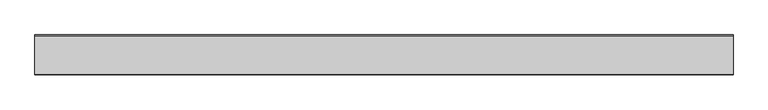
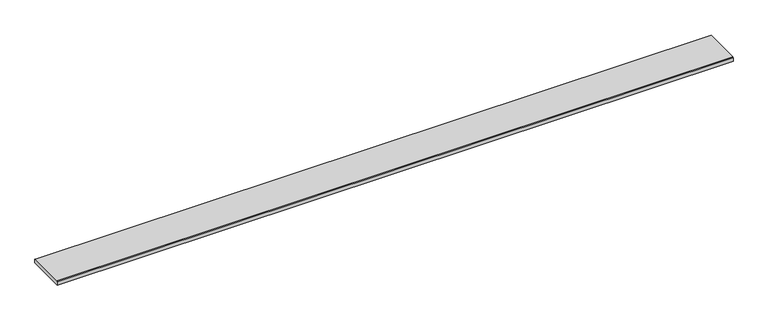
"""IFC4 building model written with IfcOpenShell, lengths in millimetres: proxy geometry."""

import ifcopenshell
import ifcopenshell.guid

model = None  # the IFC model being written
_history = None  # IfcOwnerHistory: only IFC2X3 demands one
_inside = {}  # id of a spatial element -> (the spatial element, [elements in it])
_under = {}  # id of a project, library or spatial element -> (it, [spatial elements below it])
_declared = {}  # id of a project -> (the project, [libraries it declares])
_typed = {}  # id of a type object -> (the type object, [elements of that type])
_made_of = {}  # id of a material, layer set ... -> (it, [elements and type objects made of it])


def new_model(schema):
    """Start an empty IFC model of exactly this schema.

    Asked for "IFC4X3", IfcOpenShell would pick the latest addendum, in which some entities
    have other attributes; the version numbers below select the first issue.
    IFC2X3 requires an IfcOwnerHistory on every rooted entity: one is made here for all.
    """
    global model, _history
    if schema == "IFC4X3":
        model = ifcopenshell.file(schema_version=(4, 3, 0, 0))
    else:
        model = ifcopenshell.file(schema=schema)
    _inside.clear()
    _under.clear()
    _declared.clear()
    _typed.clear()
    _made_of.clear()
    _history = None
    if model.schema == "IFC2X3":
        org = make("IfcOrganization", Name="unknown")
        user = make(
            "IfcPersonAndOrganization",
            ThePerson=make("IfcPerson", FamilyName="unknown"),
            TheOrganization=org,
        )
        app = make(
            "IfcApplication",
            ApplicationDeveloper=org,
            Version="unknown",
            ApplicationFullName="unknown",
            ApplicationIdentifier="unknown",
        )
        _history = make(
            "IfcOwnerHistory",
            OwningUser=user,
            OwningApplication=app,
            ChangeAction="ADDED",
            CreationDate=0,
        )
    return model


def make(cls, **values):
    """One entity of the class cls with the attributes given. An attribute that is None is left unset."""
    return model.create_entity(
        cls, **{name: value for name, value in values.items() if value is not None}
    )


def rooted(cls, **values):
    """An entity with a GlobalId (a new one), such as an element, a storey or a relation."""
    return make(cls, GlobalId=ifcopenshell.guid.new(), OwnerHistory=_history, **values)


def si_unit(unit_type, name, prefix=None):
    """IfcSIUnit, for example si_unit("LENGTHUNIT", "METRE", prefix="MILLI")."""
    return make("IfcSIUnit", UnitType=unit_type, Prefix=prefix, Name=name)


def assignment(units):
    """IfcUnitAssignment: the units of a project."""
    return None if units is None else make("IfcUnitAssignment", Units=units)


def point(xyz):
    """IfcCartesianPoint."""
    return None if xyz is None else make("IfcCartesianPoint", Coordinates=xyz)


def direction(xyz):
    """IfcDirection."""
    return None if xyz is None else make("IfcDirection", DirectionRatios=xyz)


def frame(location, z_axis=None, x_axis=None):
    """IfcAxis2Placement3D, a coordinate frame: its origin and axes. An axis left out is left unset."""
    return make(
        "IfcAxis2Placement3D",
        Location=point(location),
        Axis=direction(z_axis),
        RefDirection=direction(x_axis),
    )


def origin():
    """The frame at (0, 0, 0) with its axes left unset."""
    return frame((0.0, 0.0, 0.0))


def place(relative_to, where):
    """IfcLocalPlacement: puts the frame where relative to a parent placement (None: the world)."""
    return make(
        "IfcLocalPlacement", PlacementRelTo=relative_to, RelativePlacement=where
    )


def context(
    kind, dimensions, precision=None, world=None, true_north=None, identifier=None
):
    """IfcGeometricRepresentationContext, for example the 3D "Model" context."""
    return make(
        "IfcGeometricRepresentationContext",
        ContextIdentifier=identifier,
        ContextType=kind,
        CoordinateSpaceDimension=dimensions,
        Precision=precision,
        WorldCoordinateSystem=world,
        TrueNorth=true_north,
    )


def project(units=None, contexts=None):
    """IfcProject with its units and contexts."""
    return rooted(
        "IfcProject",
        Name="project",
        RepresentationContexts=contexts,
        UnitsInContext=assignment(units),
    )


def spatial(cls, under=None, at=None, **own):
    """A site, building, storey or space (cls), placed at a placement, below another one or the project."""
    s = rooted(cls, ObjectPlacement=at, **own)
    if under is not None:
        _under.setdefault(under.id(), (under, []))[1].append(s)
    return s


def polyline(points):
    """IfcPolyline through the points."""
    return make("IfcPolyline", Points=[point(p) for p in points])


def outline(outer, holes=None, kind="AREA"):
    """IfcArbitraryClosedProfileDef: a profile drawn as a closed curve; with holes, ...WithVoids."""
    if holes is None:
        return make("IfcArbitraryClosedProfileDef", ProfileType=kind, OuterCurve=outer)
    return make(
        "IfcArbitraryProfileDefWithVoids",
        ProfileType=kind,
        OuterCurve=outer,
        InnerCurves=holes,
    )


def extrude(swept, where, along, depth):
    """IfcExtrudedAreaSolid: the profile swept, set in the frame where, extruded along a direction by depth."""
    return make(
        "IfcExtrudedAreaSolid",
        SweptArea=swept,
        Position=where,
        ExtrudedDirection=direction(along),
        Depth=depth,
    )


def shape(context_of_items, identifier, shape_type, items):
    """IfcShapeRepresentation: the items that make up one representation, for example the "Body"."""
    return make(
        "IfcShapeRepresentation",
        ContextOfItems=context_of_items,
        RepresentationIdentifier=identifier,
        RepresentationType=shape_type,
        Items=items,
    )


def source(mapping_origin, context_of_items, identifier, shape_type, items):
    """IfcRepresentationMap: a shape defined once, which mapped items show again and again."""
    return make(
        "IfcRepresentationMap",
        MappingOrigin=mapping_origin,
        MappedRepresentation=shape(context_of_items, identifier, shape_type, items),
    )


def transform(
    local_origin,
    x_axis=None,
    y_axis=None,
    z_axis=None,
    scale=None,
    scale2=None,
    scale3=None,
    uniform=True,
):
    """IfcCartesianTransformationOperator3D, or its non-uniform kind. x_axis, y_axis, z_axis: its Axis1, 2, 3."""
    if uniform:
        return make(
            "IfcCartesianTransformationOperator3D",
            Axis1=direction(x_axis),
            Axis2=direction(y_axis),
            LocalOrigin=point(local_origin),
            Scale=scale,
            Axis3=direction(z_axis),
        )
    return make(
        "IfcCartesianTransformationOperator3DnonUniform",
        Axis1=direction(x_axis),
        Axis2=direction(y_axis),
        LocalOrigin=point(local_origin),
        Scale=scale,
        Axis3=direction(z_axis),
        Scale2=scale2,
        Scale3=scale3,
    )


def mapped(mapping_source, mapping_target):
    """IfcMappedItem: shows the shape of a source again, moved by a transform."""
    return make(
        "IfcMappedItem", MappingSource=mapping_source, MappingTarget=mapping_target
    )


def made_of(thing, what):
    """Note that an element or type object is made of a material, layer set ...; save() writes the relation."""
    if what is not None:
        _made_of.setdefault(what.id(), (what, []))[1].append(thing)
    return thing


def element(
    cls,
    number,
    at=None,
    inside=None,
    cuts=None,
    type_object=None,
    material=None,
    context=None,
    identifier="Body",
    shape_type=None,
    held_by="IfcProductDefinitionShape",
    body=None,
    shapes=None,
    **own,
):
    """One element of the class cls, such as IfcWall. Its Tag is "e" and its number.

    at: its placement. inside: the storey or other place that contains it. cuts: it is an
    opening in that element (IfcRelVoidsElement). A single representation is given by context,
    identifier, shape_type and body (its items); several are given by shapes. held_by: the class
    of the entity that holds the representations. save() writes the other relations.
    """
    e = rooted(cls, Tag="e%d" % number, ObjectPlacement=at, **own)
    if body is not None:
        shapes = [shape(context, identifier, shape_type, body)]
    if shapes is not None:
        e.Representation = make(held_by, Representations=shapes)
    if inside is not None:
        _inside.setdefault(inside.id(), (inside, []))[1].append(e)
    if cuts is not None:
        rooted(
            "IfcRelVoidsElement", RelatingBuildingElement=cuts, RelatedOpeningElement=e
        )
    if type_object is not None:
        _typed.setdefault(type_object.id(), (type_object, []))[1].append(e)
    return made_of(e, material)


def aggregate(whole, parts):
    """IfcRelAggregates: a whole, such as a stair, and the parts it consists of."""
    return rooted("IfcRelAggregates", RelatingObject=whole, RelatedObjects=parts)


def save(model, path):
    """Write the relations noted so far, then the file.

    IfcRelAggregates (storeys below a building ...), IfcRelContainedInSpatialStructure (elements
    in a storey), IfcRelDefinesByType, IfcRelAssociatesMaterial and IfcRelDeclares: one each for
    every whole, place, type object, material and project.
    """
    for whole, parts in _under.values():
        aggregate(whole, parts)
    for where, things in _inside.values():
        rooted(
            "IfcRelContainedInSpatialStructure",
            RelatedElements=things,
            RelatingStructure=where,
        )
    for kind, things in _typed.values():
        rooted("IfcRelDefinesByType", RelatedObjects=things, RelatingType=kind)
    for what, things in _made_of.values():
        rooted("IfcRelAssociatesMaterial", RelatedObjects=things, RelatingMaterial=what)
    for by, libraries in _declared.values():
        rooted("IfcRelDeclares", RelatingContext=by, RelatedDefinitions=libraries)
    model.write(path)


def generic_models_124f44ad(model_context):
    return source(origin(), model_context, "Body", "SweptSolid", [
        extrude(outline(polyline([(0.0, 13.629936), (2.245064, 15.875), (137.454936, 15.875), (139.7, 13.629936), (139.7, 0.0), (0.0, 0.0), (0.0, 13.629936)])), frame((0.0, 0.0, 0.0), z_axis=(1.0, 0.0, 0.0), x_axis=(0.0, 1.0, 0.0)), (0.0, 0.0, 1.0), 2438.4),
    ])


if __name__ == "__main__":
    model = new_model("IFC4")
    model_context = context("Model", 3, world=origin())
    ifc_project = project(units=[si_unit("LENGTHUNIT", "METRE", prefix="MILLI")], contexts=[model_context])
    site = spatial("IfcSite", under=ifc_project)
    building = spatial("IfcBuilding", under=site)
    placement = place(None, origin())
    generic_models_shape = generic_models_124f44ad(model_context)
    element("IfcBuildingElementProxy", 1, Name="440 Series Reversible Trim (Fiber) : 440 Series Reversible Trim (Fiber) - 5.5\"", ObjectType="440 Series Reversible Trim (Fiber) : 440 Series Reversible Trim (Fiber) - 5.5\"", at=placement, inside=building, context=model_context, shape_type="MappedRepresentation", body=[
        mapped(generic_models_shape, transform((0.0, 0.0, 0.0), x_axis=(1.0, 0.0, 0.0), y_axis=(0.0, 1.0, 0.0), z_axis=(0.0, 0.0, 1.0))),
    ])
    save(model, "model.ifc")
